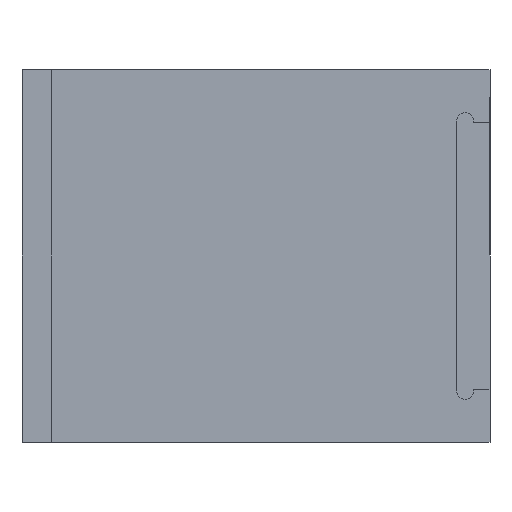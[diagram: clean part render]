
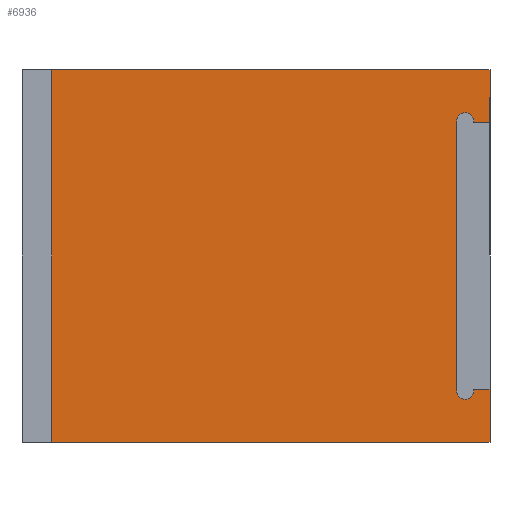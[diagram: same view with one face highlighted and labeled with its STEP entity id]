
A CAD part, front view. The second image highlights one B-rep face of the part: STEP entity #6936.
In plain terms, the highlighted planar face has unit normal (0, -1, 0).
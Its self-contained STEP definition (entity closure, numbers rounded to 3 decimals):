
#54 = CARTESIAN_POINT ( 'NONE',  ( -36.871, 13.226, 23.5 ) ) ;
#109 = VERTEX_POINT ( 'NONE', #4967 ) ;
#388 = CARTESIAN_POINT ( 'NONE',  ( -34.071, 13.226, 23.25 ) ) ;
#459 = DIRECTION ( 'NONE',  ( 0., -1., 0. ) ) ;
#612 = CARTESIAN_POINT ( 'NONE',  ( -34.071, 13.226, 32.5 ) ) ;
#1156 = CARTESIAN_POINT ( 'NONE',  ( -36.871, 13.226, 23.25 ) ) ;
#1353 = DIRECTION ( 'NONE',  ( 1., 0., 0. ) ) ;
#2314 = LINE ( 'NONE', #32809, #35250 ) ;
#2718 = PLANE ( 'NONE',  #3741 ) ;
#2866 = LINE ( 'NONE', #1156, #7634 ) ;
#2911 = CARTESIAN_POINT ( 'NONE',  ( -110.571, 13.226, -32.5 ) ) ;
#3141 = DIRECTION ( 'NONE',  ( 0., 0., -1. ) ) ;
#3195 = VECTOR ( 'NONE', #7891, 1000. ) ;
#3233 = DIRECTION ( 'NONE',  ( 0., 1., 0. ) ) ;
#3279 = CARTESIAN_POINT ( 'NONE',  ( -38.371, 13.226, -23.5 ) ) ;
#3741 = AXIS2_PLACEMENT_3D ( 'NONE', #32531, #459, #14966 ) ;
#3835 = FACE_OUTER_BOUND ( 'NONE', #3940, .T. ) ;
#3940 = EDGE_LOOP ( 'NONE', ( #21424, #10228, #36674, #33914, #13172, #22952, #17777, #26348, #19584, #36280, #21318, #9488, #8006 ) ) ;
#4892 = DIRECTION ( 'NONE',  ( 0., 0., 1. ) ) ;
#4929 = CARTESIAN_POINT ( 'NONE',  ( -34.071, 13.226, -32.5 ) ) ;
#4967 = CARTESIAN_POINT ( 'NONE',  ( -36.871, 13.226, 23.5 ) ) ;
#6091 = DIRECTION ( 'NONE',  ( 0., 0., -1. ) ) ;
#6209 = VERTEX_POINT ( 'NONE', #15090 ) ;
#6243 = DIRECTION ( 'NONE',  ( 0., 0., -1. ) ) ;
#6286 = DIRECTION ( 'NONE',  ( 0., 1., 0. ) ) ;
#6324 = CARTESIAN_POINT ( 'NONE',  ( -38.371, 13.226, 23.5 ) ) ;
#6478 = VERTEX_POINT ( 'NONE', #37520 ) ;
#6528 = LINE ( 'NONE', #388, #36383 ) ;
#6629 = VERTEX_POINT ( 'NONE', #16442 ) ;
#6665 = VERTEX_POINT ( 'NONE', #34520 ) ;
#6676 = EDGE_CURVE ( 'NONE', #29399, #27710, #6528, .T. ) ;
#6936 = ADVANCED_FACE ( 'NONE', ( #3835 ), #2718, .T. ) ;
#7431 = LINE ( 'NONE', #54, #12807 ) ;
#7480 = EDGE_CURVE ( 'NONE', #27710, #6209, #27223, .T. ) ;
#7634 = VECTOR ( 'NONE', #1353, 1000. ) ;
#7891 = DIRECTION ( 'NONE',  ( 0., 0., -1. ) ) ;
#8006 = ORIENTED_EDGE ( 'NONE', *, *, #33641, .T. ) ;
#8353 = DIRECTION ( 'NONE',  ( 0., 0., -1. ) ) ;
#8388 = DIRECTION ( 'NONE',  ( 0., 1., 0. ) ) ;
#8433 = CARTESIAN_POINT ( 'NONE',  ( -38.371, 13.226, -23.5 ) ) ;
#8676 = CARTESIAN_POINT ( 'NONE',  ( -38.371, 13.226, -25. ) ) ;
#8904 = EDGE_CURVE ( 'NONE', #6629, #6665, #18532, .T. ) ;
#9472 = VERTEX_POINT ( 'NONE', #19995 ) ;
#9488 = ORIENTED_EDGE ( 'NONE', *, *, #29929, .T. ) ;
#9519 = VECTOR ( 'NONE', #29691, 1000. ) ;
#10228 = ORIENTED_EDGE ( 'NONE', *, *, #35074, .T. ) ;
#10473 = LINE ( 'NONE', #36827, #24496 ) ;
#12387 = DIRECTION ( 'NONE',  ( 0., 0., -1. ) ) ;
#12724 = CARTESIAN_POINT ( 'NONE',  ( -36.871, 13.226, -23.25 ) ) ;
#12807 = VECTOR ( 'NONE', #6091, 1000. ) ;
#13172 = ORIENTED_EDGE ( 'NONE', *, *, #7480, .T. ) ;
#14290 = VECTOR ( 'NONE', #4892, 1000. ) ;
#14379 = DIRECTION ( 'NONE',  ( 1., 0., 0. ) ) ;
#14491 = CARTESIAN_POINT ( 'NONE',  ( -110.571, 13.226, -32.5 ) ) ;
#14568 = VERTEX_POINT ( 'NONE', #21402 ) ;
#14966 = DIRECTION ( 'NONE',  ( 0., 0., -1. ) ) ;
#15090 = CARTESIAN_POINT ( 'NONE',  ( -110.571, 13.226, 32.5 ) ) ;
#16442 = CARTESIAN_POINT ( 'NONE',  ( -36.871, 13.226, -23.25 ) ) ;
#16696 = DIRECTION ( 'NONE',  ( 0., 0., 1. ) ) ;
#17601 = CARTESIAN_POINT ( 'NONE',  ( -39.871, 13.226, -23.5 ) ) ;
#17777 = ORIENTED_EDGE ( 'NONE', *, *, #19065, .T. ) ;
#18532 = LINE ( 'NONE', #12724, #3195 ) ;
#18700 = VECTOR ( 'NONE', #23577, 1000. ) ;
#19065 = EDGE_CURVE ( 'NONE', #28255, #6478, #32731, .T. ) ;
#19154 = CARTESIAN_POINT ( 'NONE',  ( -34.071, 13.226, 23.25 ) ) ;
#19584 = ORIENTED_EDGE ( 'NONE', *, *, #25234, .T. ) ;
#19816 = AXIS2_PLACEMENT_3D ( 'NONE', #8433, #8388, #8353 ) ;
#19995 = CARTESIAN_POINT ( 'NONE',  ( -39.871, 13.226, 23.5 ) ) ;
#21318 = ORIENTED_EDGE ( 'NONE', *, *, #36049, .T. ) ;
#21402 = CARTESIAN_POINT ( 'NONE',  ( -36.871, 13.226, 23.25 ) ) ;
#21424 = ORIENTED_EDGE ( 'NONE', *, *, #34639, .T. ) ;
#21460 = VERTEX_POINT ( 'NONE', #8676 ) ;
#22581 = CARTESIAN_POINT ( 'NONE',  ( -34.071, 13.226, 32.5 ) ) ;
#22952 = ORIENTED_EDGE ( 'NONE', *, *, #30426, .T. ) ;
#23577 = DIRECTION ( 'NONE',  ( 0., 0., 1. ) ) ;
#23950 = CARTESIAN_POINT ( 'NONE',  ( -39.871, 13.226, -23.5 ) ) ;
#24496 = VECTOR ( 'NONE', #12387, 1000. ) ;
#24895 = CIRCLE ( 'NONE', #19816, 1.5 ) ;
#25234 = EDGE_CURVE ( 'NONE', #31996, #6629, #2314, .T. ) ;
#26348 = ORIENTED_EDGE ( 'NONE', *, *, #34682, .T. ) ;
#26373 = EDGE_CURVE ( 'NONE', #14568, #29399, #2866, .T. ) ;
#27223 = LINE ( 'NONE', #612, #9519 ) ;
#27710 = VERTEX_POINT ( 'NONE', #22581 ) ;
#28255 = VERTEX_POINT ( 'NONE', #2911 ) ;
#29399 = VERTEX_POINT ( 'NONE', #19154 ) ;
#29691 = DIRECTION ( 'NONE',  ( -1., 0., 0. ) ) ;
#29929 = EDGE_CURVE ( 'NONE', #21460, #32428, #24895, .T. ) ;
#30389 = VECTOR ( 'NONE', #14379, 1000. ) ;
#30426 = EDGE_CURVE ( 'NONE', #6209, #28255, #10473, .T. ) ;
#30649 = LINE ( 'NONE', #4929, #14290 ) ;
#30797 = AXIS2_PLACEMENT_3D ( 'NONE', #3279, #3233, #3141 ) ;
#30809 = LINE ( 'NONE', #23950, #18700 ) ;
#31996 = VERTEX_POINT ( 'NONE', #34897 ) ;
#32428 = VERTEX_POINT ( 'NONE', #17601 ) ;
#32531 = CARTESIAN_POINT ( 'NONE',  ( -38.371, 13.226, 23.5 ) ) ;
#32731 = LINE ( 'NONE', #14491, #30389 ) ;
#32778 = DIRECTION ( 'NONE',  ( -1., 0., 0. ) ) ;
#32809 = CARTESIAN_POINT ( 'NONE',  ( -34.071, 13.226, -23.25 ) ) ;
#33014 = CIRCLE ( 'NONE', #30797, 1.5 ) ;
#33271 = CIRCLE ( 'NONE', #34053, 1.5 ) ;
#33641 = EDGE_CURVE ( 'NONE', #32428, #9472, #30809, .T. ) ;
#33914 = ORIENTED_EDGE ( 'NONE', *, *, #6676, .T. ) ;
#34053 = AXIS2_PLACEMENT_3D ( 'NONE', #6324, #6286, #6243 ) ;
#34520 = CARTESIAN_POINT ( 'NONE',  ( -36.871, 13.226, -23.5 ) ) ;
#34639 = EDGE_CURVE ( 'NONE', #9472, #109, #33271, .T. ) ;
#34682 = EDGE_CURVE ( 'NONE', #6478, #31996, #30649, .T. ) ;
#34897 = CARTESIAN_POINT ( 'NONE',  ( -34.071, 13.226, -23.25 ) ) ;
#35074 = EDGE_CURVE ( 'NONE', #109, #14568, #7431, .T. ) ;
#35250 = VECTOR ( 'NONE', #32778, 1000. ) ;
#36049 = EDGE_CURVE ( 'NONE', #6665, #21460, #33014, .T. ) ;
#36280 = ORIENTED_EDGE ( 'NONE', *, *, #8904, .T. ) ;
#36383 = VECTOR ( 'NONE', #16696, 1000. ) ;
#36674 = ORIENTED_EDGE ( 'NONE', *, *, #26373, .T. ) ;
#36827 = CARTESIAN_POINT ( 'NONE',  ( -110.571, 13.226, 32.5 ) ) ;
#37520 = CARTESIAN_POINT ( 'NONE',  ( -34.071, 13.226, -32.5 ) ) ;
